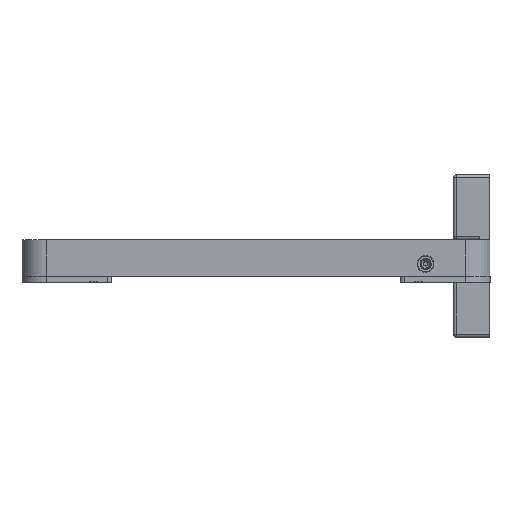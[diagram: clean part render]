
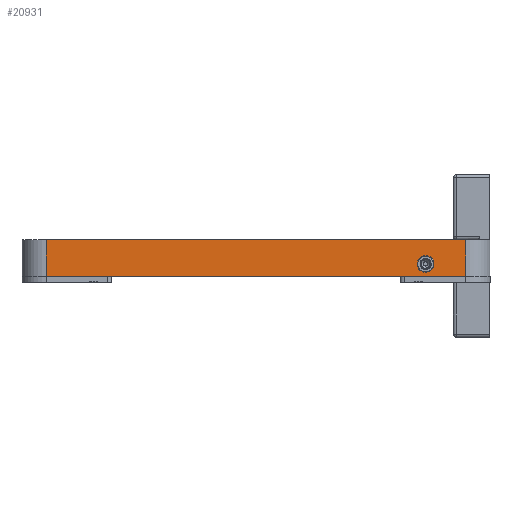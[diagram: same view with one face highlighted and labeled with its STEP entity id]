
A CAD part, left-side view. The second image highlights one B-rep face of the part: STEP entity #20931.
In plain terms, the highlighted planar face has unit normal (-1, 0, 0).
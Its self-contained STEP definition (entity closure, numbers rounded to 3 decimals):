
#380 = DIRECTION ( 'NONE',  ( 0., 0., -1. ) ) ;
#1054 = CARTESIAN_POINT ( 'NONE',  ( 0., 12., 0. ) ) ;
#1155 = EDGE_CURVE ( 'NONE', #11845, #9503, #2704, .T. ) ;
#1598 = ORIENTED_EDGE ( 'NONE', *, *, #7305, .T. ) ;
#2318 = DIRECTION ( 'NONE',  ( 0., 0., 1. ) ) ;
#2704 = LINE ( 'NONE', #24774, #6540 ) ;
#3000 = EDGE_CURVE ( 'NONE', #11845, #17951, #8327, .T. ) ;
#3248 = CARTESIAN_POINT ( 'NONE',  ( 0., 31.65, 6.1 ) ) ;
#4635 = CARTESIAN_POINT ( 'NONE',  ( 0., 31.65, 4.35 ) ) ;
#6540 = VECTOR ( 'NONE', #8047, 1000. ) ;
#6999 = FACE_BOUND ( 'NONE', #9293, .T. ) ;
#7305 = EDGE_CURVE ( 'NONE', #11390, #18652, #23072, .T. ) ;
#8047 = DIRECTION ( 'NONE',  ( 0., 0., -1. ) ) ;
#8327 = LINE ( 'NONE', #12335, #10243 ) ;
#8340 = LINE ( 'NONE', #31435, #9496 ) ;
#8785 = VECTOR ( 'NONE', #13735, 1000. ) ;
#8846 = CARTESIAN_POINT ( 'NONE',  ( 0., 0., 0. ) ) ;
#9293 = EDGE_LOOP ( 'NONE', ( #1598, #13302 ) ) ;
#9446 = DIRECTION ( 'NONE',  ( 0., 0., -1. ) ) ;
#9496 = VECTOR ( 'NONE', #2318, 1000. ) ;
#9503 = VERTEX_POINT ( 'NONE', #22759 ) ;
#10243 = VECTOR ( 'NONE', #27006, 1000. ) ;
#10273 = CARTESIAN_POINT ( 'NONE',  ( 0., 31.65, 6.1 ) ) ;
#11238 = CARTESIAN_POINT ( 'NONE',  ( 0., 218., 18. ) ) ;
#11288 = CIRCLE ( 'NONE', #17320, 1.75 ) ;
#11390 = VERTEX_POINT ( 'NONE', #4635 ) ;
#11773 = CARTESIAN_POINT ( 'NONE',  ( 0., 0., 18. ) ) ;
#11845 = VERTEX_POINT ( 'NONE', #11238 ) ;
#12335 = CARTESIAN_POINT ( 'NONE',  ( 0., 0., 18. ) ) ;
#12961 = CARTESIAN_POINT ( 'NONE',  ( 0., 12., 18. ) ) ;
#13302 = ORIENTED_EDGE ( 'NONE', *, *, #19767, .T. ) ;
#13735 = DIRECTION ( 'NONE',  ( 0., -1., 0. ) ) ;
#16455 = DIRECTION ( 'NONE',  ( 1., 0., 0. ) ) ;
#16612 = EDGE_CURVE ( 'NONE', #23363, #17951, #8340, .T. ) ;
#17272 = DIRECTION ( 'NONE',  ( 1., 0., 0. ) ) ;
#17320 = AXIS2_PLACEMENT_3D ( 'NONE', #10273, #17272, #380 ) ;
#17369 = AXIS2_PLACEMENT_3D ( 'NONE', #3248, #17732, #27656 ) ;
#17681 = EDGE_CURVE ( 'NONE', #9503, #23363, #23615, .T. ) ;
#17732 = DIRECTION ( 'NONE',  ( 1., 0., 0. ) ) ;
#17951 = VERTEX_POINT ( 'NONE', #12961 ) ;
#18477 = ORIENTED_EDGE ( 'NONE', *, *, #1155, .T. ) ;
#18652 = VERTEX_POINT ( 'NONE', #24423 ) ;
#19574 = ORIENTED_EDGE ( 'NONE', *, *, #16612, .T. ) ;
#19755 = EDGE_LOOP ( 'NONE', ( #25220, #19574, #29776, #18477 ) ) ;
#19767 = EDGE_CURVE ( 'NONE', #18652, #11390, #11288, .T. ) ;
#20328 = FACE_OUTER_BOUND ( 'NONE', #19755, .T. ) ;
#20931 = ADVANCED_FACE ( 'NONE', ( #6999, #20328 ), #28495, .F. ) ;
#22759 = CARTESIAN_POINT ( 'NONE',  ( 0., 218., 0. ) ) ;
#23072 = CIRCLE ( 'NONE', #17369, 1.75 ) ;
#23363 = VERTEX_POINT ( 'NONE', #1054 ) ;
#23615 = LINE ( 'NONE', #8846, #8785 ) ;
#24423 = CARTESIAN_POINT ( 'NONE',  ( 0., 31.65, 7.85 ) ) ;
#24774 = CARTESIAN_POINT ( 'NONE',  ( 0., 218., 18. ) ) ;
#25220 = ORIENTED_EDGE ( 'NONE', *, *, #17681, .T. ) ;
#27006 = DIRECTION ( 'NONE',  ( 0., -1., 0. ) ) ;
#27656 = DIRECTION ( 'NONE',  ( 0., 0., -1. ) ) ;
#28495 = PLANE ( 'NONE',  #30416 ) ;
#29776 = ORIENTED_EDGE ( 'NONE', *, *, #3000, .F. ) ;
#30416 = AXIS2_PLACEMENT_3D ( 'NONE', #11773, #16455, #9446 ) ;
#31435 = CARTESIAN_POINT ( 'NONE',  ( 0., 12., 18. ) ) ;
